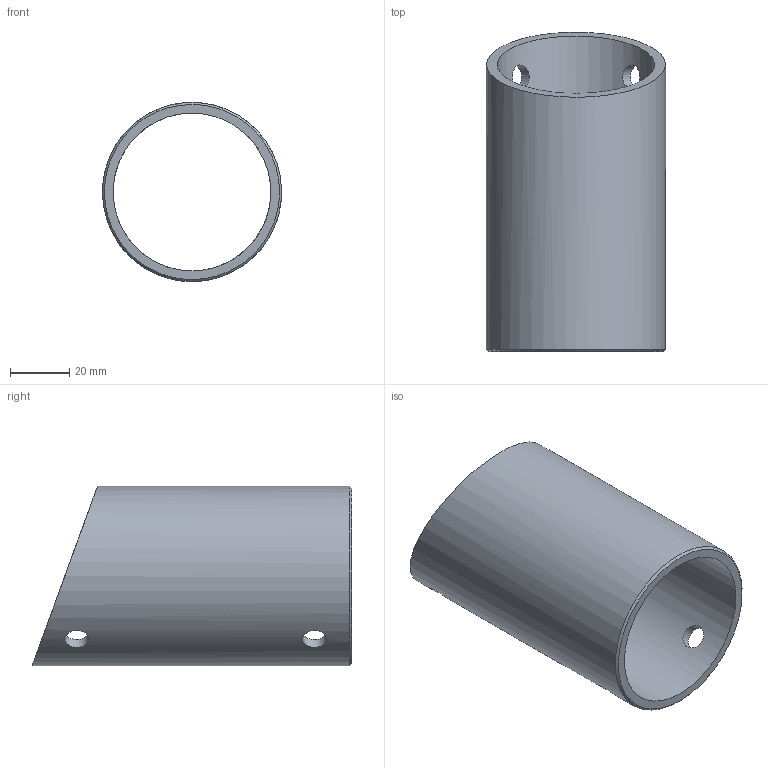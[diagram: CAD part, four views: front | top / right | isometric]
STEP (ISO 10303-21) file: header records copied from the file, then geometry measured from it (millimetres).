
FILE_DESCRIPTION (( 'STEP AP214' ), '1' );
FILE_NAME ('MONO_038-p216_02.STEP', '2026-03-24T00:22:37', ( '' ), ( '' ), 'SwSTEP 2.0', 'SolidWorks 2024', '' );
FILE_SCHEMA (( 'AUTOMOTIVE_DESIGN' ));
Length unit declared in the file: millimetre
Products named in the file (1): MONO_038-p216_02
Bounding box: 60.3 x 107.5 x 60.3 mm (x, y, z)
Volume: 61206 mm3; surface area: 35597.1 mm2
Topology: 1 solids, 1 shells, 9 faces, 25 edges, 18 vertices
Faces by surface type: cylinder 6, plane 2, bspline 1
Full cylindrical faces by diameter (mm): 8 x4, 53.1 x1, 60.3 x1
Entity records: 1031 total; most frequent: CARTESIAN_POINT 845, EDGE_LOOP 26, ORIENTED_EDGE 26, DIRECTION 18, FACE_OUTER_BOUND 16, EDGE_CURVE 13, VERTEX_POINT 13, B_SPLINE_CURVE_WITH_KNOTS 10
